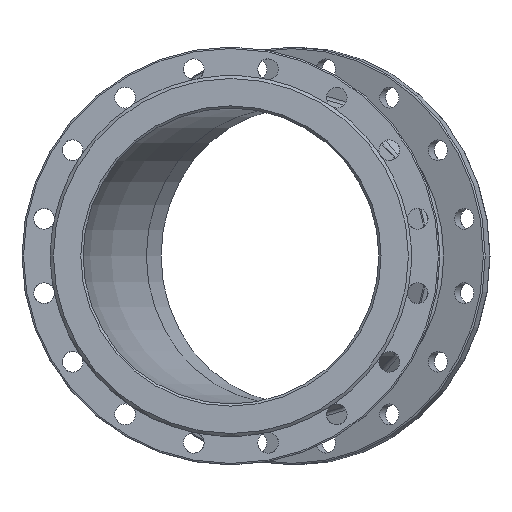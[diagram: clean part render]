
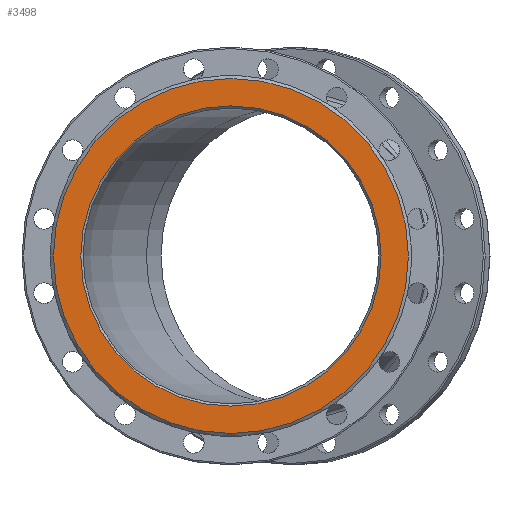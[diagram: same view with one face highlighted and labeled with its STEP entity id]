
A CAD part, left-side view. The second image highlights one B-rep face of the part: STEP entity #3498.
In plain terms, the highlighted planar face has unit normal (-1, 0, 0).
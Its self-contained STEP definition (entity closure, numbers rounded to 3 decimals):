
#278 = CIRCLE ( 'NONE', #3577, 240. ) ;
#323 = VERTEX_POINT ( 'NONE', #1491 ) ;
#340 = EDGE_LOOP ( 'NONE', ( #2936 ) ) ;
#347 = DIRECTION ( 'NONE',  ( 1., 0., 0. ) ) ;
#659 = VERTEX_POINT ( 'NONE', #2473 ) ;
#969 = CIRCLE ( 'NONE', #3545, 203. ) ;
#1054 = AXIS2_PLACEMENT_3D ( 'NONE', #1932, #3145, #2274 ) ;
#1073 = FACE_BOUND ( 'NONE', #340, .T. ) ;
#1249 = DIRECTION ( 'NONE',  ( 0., 1., 0. ) ) ;
#1264 = CARTESIAN_POINT ( 'NONE',  ( -239., 0., 0. ) ) ;
#1491 = CARTESIAN_POINT ( 'NONE',  ( -239., 240., 0. ) ) ;
#1892 = FACE_OUTER_BOUND ( 'NONE', #3754, .T. ) ;
#1907 = EDGE_CURVE ( 'NONE', #323, #323, #278, .T. ) ;
#1932 = CARTESIAN_POINT ( 'NONE',  ( -239., 0., 0. ) ) ;
#1967 = CARTESIAN_POINT ( 'NONE',  ( -239., 0., 0. ) ) ;
#2274 = DIRECTION ( 'NONE',  ( 0., 1., 0. ) ) ;
#2473 = CARTESIAN_POINT ( 'NONE',  ( -239., 203., 0. ) ) ;
#2876 = ORIENTED_EDGE ( 'NONE', *, *, #1907, .F. ) ;
#2884 = DIRECTION ( 'NONE',  ( 0., 1., 0. ) ) ;
#2936 = ORIENTED_EDGE ( 'NONE', *, *, #3222, .T. ) ;
#3145 = DIRECTION ( 'NONE',  ( 1., 0., 0. ) ) ;
#3160 = DIRECTION ( 'NONE',  ( 1., 0., 0. ) ) ;
#3222 = EDGE_CURVE ( 'NONE', #659, #659, #969, .T. ) ;
#3437 = PLANE ( 'NONE',  #1054 ) ;
#3498 = ADVANCED_FACE ( 'NONE', ( #1073, #1892 ), #3437, .F. ) ;
#3545 = AXIS2_PLACEMENT_3D ( 'NONE', #1967, #3160, #2884 ) ;
#3577 = AXIS2_PLACEMENT_3D ( 'NONE', #1264, #347, #1249 ) ;
#3754 = EDGE_LOOP ( 'NONE', ( #2876 ) ) ;
